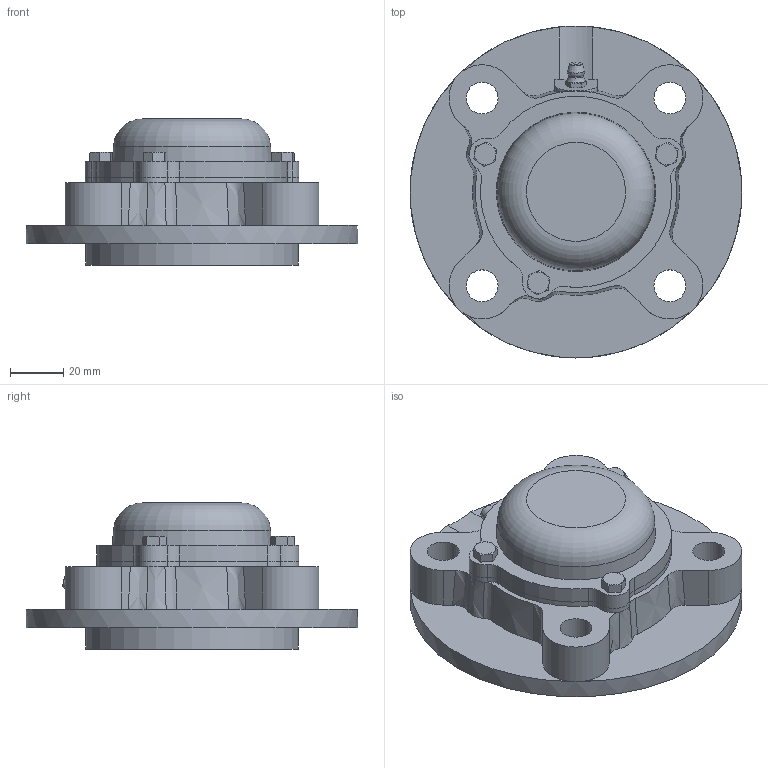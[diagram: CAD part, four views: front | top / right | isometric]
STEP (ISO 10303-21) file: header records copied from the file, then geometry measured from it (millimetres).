
FILE_DESCRIPTION((''),'2;1');
FILE_NAME('\\Ts-tgl068\j-cad-d-base\00.3DCADデータ作成フォルダ\02.フランジ形\CUKFC200\CUKFC206CE+H.stp','2014-05-22T08:57:29',('btec_1106_2'),(''),'Autodesk Inventor 2012','Autodesk Inventor 2012','');
FILE_SCHEMA(('AUTOMOTIVE_DESIGN { 1 0 10303 214 1 1 1 1 }'));
Length unit declared in the file: millimetre
Products named in the file (7): CUKFC200CE+H; CFC206; UK206; GU1; 206CE; M5X0
Assembly tree (8 placements, depth 3):
  CUKFC200CE+H
    CFC206
    UK206
    GU1
    206CE
      206CE
      M5X0  x3
Bounding box: 125 x 125 x 55 mm (x, y, z)
Volume: 226162.5 mm3; surface area: 70452.3 mm2
Topology: 7 solids, 7 shells, 298 faces, 757 edges, 486 vertices
Faces by surface type: plane 114, cylinder 82, cone 80, bspline 14, sphere 4, torus 4
Full cylindrical faces by diameter (mm): 4.134 x3, 5 x3, 5.359 x1, 6 x3, 6.35 x1, 12 x4, 25 x1, 40.5 x2, 60.5 x1, 64 x1, 80 x1, 125 x1
Entity records: 8417 total; most frequent: CARTESIAN_POINT 2278, ORIENTED_EDGE 1262, DIRECTION 1213, EDGE_CURVE 631, AXIS2_PLACEMENT_3D 510, VERTEX_POINT 424, EDGE_LOOP 334, FACE_OUTER_BOUND 264
